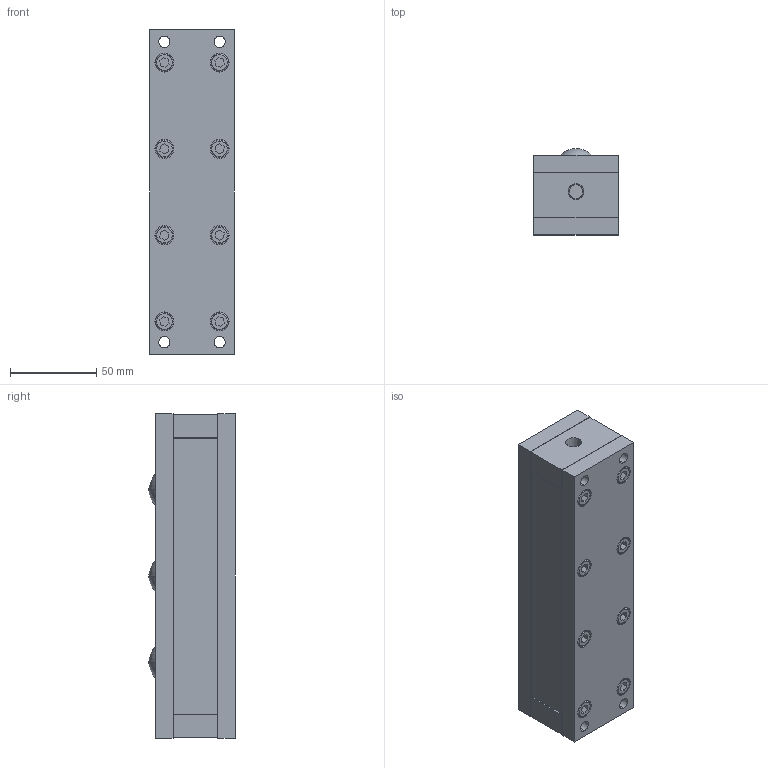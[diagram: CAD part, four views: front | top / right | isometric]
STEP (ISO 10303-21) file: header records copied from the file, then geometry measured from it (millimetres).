
FILE_DESCRIPTION (( 'STEP AP203' ), '1' );
FILE_NAME ('PVL55S-3.STEP', '2016-01-06T08:09:22', ( '' ), ( '' ), 'SwSTEP 2.0', 'SolidWorks 2013', '' );
FILE_SCHEMA (( 'CONFIG_CONTROL_DESIGN' ));
Length unit declared in the file: millimetre
Products named in the file (1): PVL55S-3
Bounding box: 49 x 50 x 188 mm (x, y, z)
Volume: 406333.6 mm3; surface area: 54951.6 mm2
Topology: 1 solids, 1 shells, 193 faces, 440 edges, 289 vertices
Faces by surface type: plane 107, cylinder 62, torus 16, sphere 6, cone 2
Entity records: 5563 total; most frequent: DIRECTION 1000, CARTESIAN_POINT 923, ORIENTED_EDGE 880, EDGE_CURVE 440, AXIS2_PLACEMENT_3D 366, VERTEX_POINT 289, LINE 268, VECTOR 268
